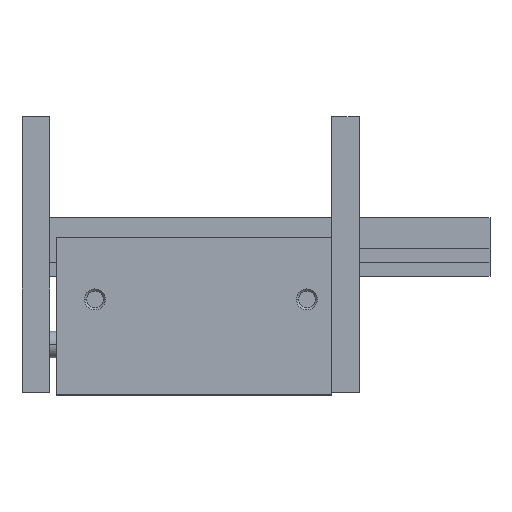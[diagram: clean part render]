
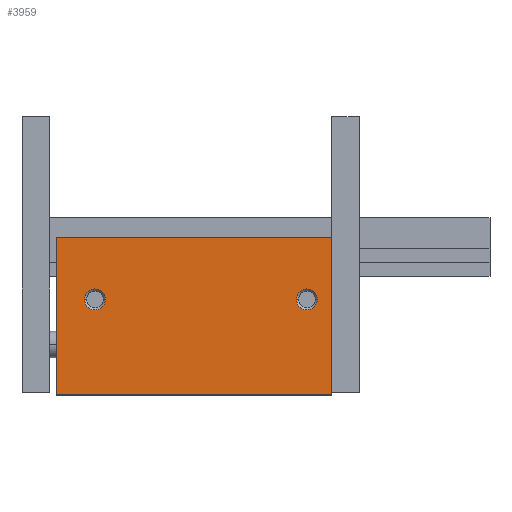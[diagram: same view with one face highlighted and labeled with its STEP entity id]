
A CAD part, top view. The second image highlights one B-rep face of the part: STEP entity #3959.
In plain terms, the highlighted planar face has unit normal (0, 0, 1) as drawn and (0, 0, -1) by its records, which use the part's own axes.
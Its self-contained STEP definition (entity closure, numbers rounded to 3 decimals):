
#208 = ORIENTED_EDGE ( 'NONE', *, *, #7981, .T. ) ;
#419 = DIRECTION ( 'NONE',  ( -1., 0., 0. ) ) ;
#602 = CARTESIAN_POINT ( 'NONE',  ( 63.5, -18.161, -13.487 ) ) ;
#618 = CIRCLE ( 'NONE', #5826, 2.413 ) ;
#650 = VECTOR ( 'NONE', #5037, 1000. ) ;
#673 = DIRECTION ( 'NONE',  ( 0., 0., 1. ) ) ;
#722 = PLANE ( 'NONE',  #7060 ) ;
#729 = CARTESIAN_POINT ( 'NONE',  ( 0., -18.161, -13.487 ) ) ;
#830 = ORIENTED_EDGE ( 'NONE', *, *, #8246, .T. ) ;
#847 = LINE ( 'NONE', #4563, #4492 ) ;
#899 = EDGE_LOOP ( 'NONE', ( #208, #8207 ) ) ;
#1169 = CARTESIAN_POINT ( 'NONE',  ( 63.5, 18.161, -13.487 ) ) ;
#1281 = AXIS2_PLACEMENT_3D ( 'NONE', #2774, #7511, #3444 ) ;
#1339 = VECTOR ( 'NONE', #2746, 1000. ) ;
#1433 = VERTEX_POINT ( 'NONE', #1713 ) ;
#1463 = DIRECTION ( 'NONE',  ( 1., 0., 0. ) ) ;
#1713 = CARTESIAN_POINT ( 'NONE',  ( 63.5, -18.161, -13.487 ) ) ;
#1721 = ORIENTED_EDGE ( 'NONE', *, *, #5852, .T. ) ;
#1908 = EDGE_CURVE ( 'NONE', #4503, #8210, #847, .T. ) ;
#1964 = FACE_BOUND ( 'NONE', #2703, .T. ) ;
#1986 = CARTESIAN_POINT ( 'NONE',  ( 57.023, 3.886, -13.487 ) ) ;
#2703 = EDGE_LOOP ( 'NONE', ( #3784, #5327 ) ) ;
#2746 = DIRECTION ( 'NONE',  ( 0., 1., 0. ) ) ;
#2774 = CARTESIAN_POINT ( 'NONE',  ( 5.715, 3.886, -13.487 ) ) ;
#2875 = VECTOR ( 'NONE', #3955, 1000. ) ;
#2942 = AXIS2_PLACEMENT_3D ( 'NONE', #7090, #3046, #7777 ) ;
#2966 = ORIENTED_EDGE ( 'NONE', *, *, #7110, .F. ) ;
#3046 = DIRECTION ( 'NONE',  ( 0., 0., 1. ) ) ;
#3444 = DIRECTION ( 'NONE',  ( 1., 0., 0. ) ) ;
#3481 = VERTEX_POINT ( 'NONE', #729 ) ;
#3560 = ORIENTED_EDGE ( 'NONE', *, *, #1908, .F. ) ;
#3584 = DIRECTION ( 'NONE',  ( 0., 0., 1. ) ) ;
#3784 = ORIENTED_EDGE ( 'NONE', *, *, #8106, .T. ) ;
#3955 = DIRECTION ( 'NONE',  ( 0., 1., 0. ) ) ;
#3959 = ADVANCED_FACE ( 'NONE', ( #5310, #5529, #1964 ), #722, .F. ) ;
#4471 = EDGE_LOOP ( 'NONE', ( #1721, #3560, #2966, #830 ) ) ;
#4492 = VECTOR ( 'NONE', #419, 1000. ) ;
#4503 = VERTEX_POINT ( 'NONE', #1169 ) ;
#4563 = CARTESIAN_POINT ( 'NONE',  ( 63.5, 18.161, -13.487 ) ) ;
#4603 = CARTESIAN_POINT ( 'NONE',  ( 0., -18.161, -13.487 ) ) ;
#4648 = LINE ( 'NONE', #4603, #2875 ) ;
#4784 = CARTESIAN_POINT ( 'NONE',  ( 54.61, 3.886, -13.487 ) ) ;
#5005 = CARTESIAN_POINT ( 'NONE',  ( 0., 18.161, -13.487 ) ) ;
#5037 = DIRECTION ( 'NONE',  ( -1., 0., 0. ) ) ;
#5310 = FACE_BOUND ( 'NONE', #899, .T. ) ;
#5327 = ORIENTED_EDGE ( 'NONE', *, *, #7160, .T. ) ;
#5469 = DIRECTION ( 'NONE',  ( 1., 0., 0. ) ) ;
#5513 = DIRECTION ( 'NONE',  ( 0., 0., 1. ) ) ;
#5529 = FACE_OUTER_BOUND ( 'NONE', #4471, .T. ) ;
#5564 = CIRCLE ( 'NONE', #1281, 2.413 ) ;
#5595 = AXIS2_PLACEMENT_3D ( 'NONE', #4784, #673, #5469 ) ;
#5821 = VERTEX_POINT ( 'NONE', #7952 ) ;
#5826 = AXIS2_PLACEMENT_3D ( 'NONE', #7650, #3584, #8336 ) ;
#5852 = EDGE_CURVE ( 'NONE', #3481, #8210, #4648, .T. ) ;
#6129 = LINE ( 'NONE', #8455, #650 ) ;
#6323 = CIRCLE ( 'NONE', #5595, 2.413 ) ;
#6764 = EDGE_CURVE ( 'NONE', #7465, #8000, #7303, .T. ) ;
#6816 = CARTESIAN_POINT ( 'NONE',  ( 3.302, 3.886, -13.487 ) ) ;
#6949 = CARTESIAN_POINT ( 'NONE',  ( 8.128, 3.886, -13.487 ) ) ;
#7060 = AXIS2_PLACEMENT_3D ( 'NONE', #7559, #5513, #1463 ) ;
#7090 = CARTESIAN_POINT ( 'NONE',  ( 5.715, 3.886, -13.487 ) ) ;
#7110 = EDGE_CURVE ( 'NONE', #1433, #4503, #8364, .T. ) ;
#7160 = EDGE_CURVE ( 'NONE', #7876, #5821, #6323, .T. ) ;
#7303 = CIRCLE ( 'NONE', #2942, 2.413 ) ;
#7465 = VERTEX_POINT ( 'NONE', #6949 ) ;
#7511 = DIRECTION ( 'NONE',  ( 0., 0., 1. ) ) ;
#7559 = CARTESIAN_POINT ( 'NONE',  ( 63.5, -18.161, -13.487 ) ) ;
#7650 = CARTESIAN_POINT ( 'NONE',  ( 54.61, 3.886, -13.487 ) ) ;
#7777 = DIRECTION ( 'NONE',  ( 1., 0., 0. ) ) ;
#7876 = VERTEX_POINT ( 'NONE', #1986 ) ;
#7952 = CARTESIAN_POINT ( 'NONE',  ( 52.197, 3.886, -13.487 ) ) ;
#7981 = EDGE_CURVE ( 'NONE', #8000, #7465, #5564, .T. ) ;
#8000 = VERTEX_POINT ( 'NONE', #6816 ) ;
#8106 = EDGE_CURVE ( 'NONE', #5821, #7876, #618, .T. ) ;
#8207 = ORIENTED_EDGE ( 'NONE', *, *, #6764, .T. ) ;
#8210 = VERTEX_POINT ( 'NONE', #5005 ) ;
#8246 = EDGE_CURVE ( 'NONE', #1433, #3481, #6129, .T. ) ;
#8336 = DIRECTION ( 'NONE',  ( 1., 0., 0. ) ) ;
#8364 = LINE ( 'NONE', #602, #1339 ) ;
#8455 = CARTESIAN_POINT ( 'NONE',  ( 63.5, -18.161, -13.487 ) ) ;
